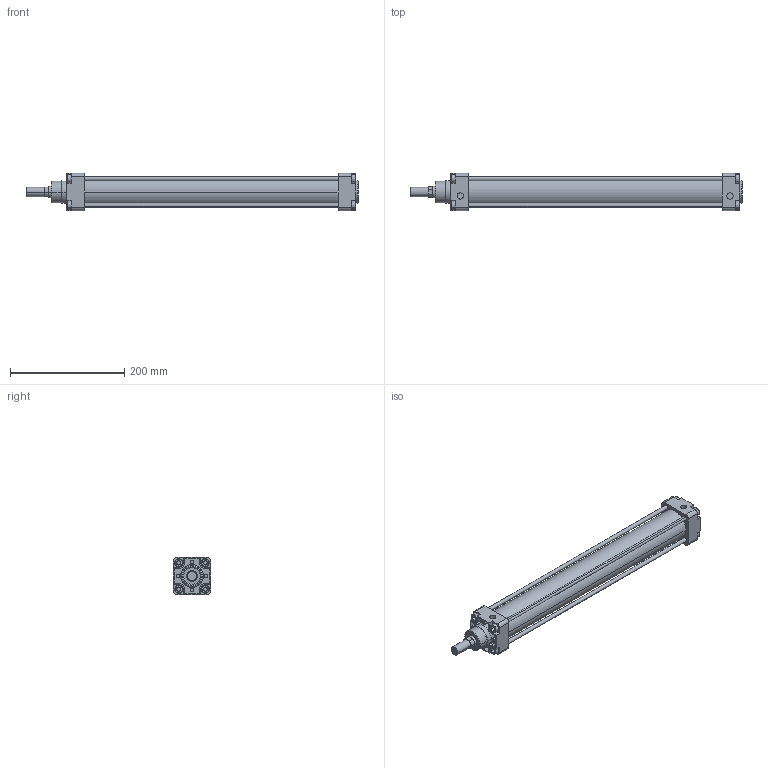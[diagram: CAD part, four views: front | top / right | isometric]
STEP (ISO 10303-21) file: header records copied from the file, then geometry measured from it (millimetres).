
FILE_DESCRIPTION(('CATIA V5 STEP Exchange'),'2;1');
FILE_NAME('D:\stp file for catalog\PNC\50\PNC 50-20-400.stp','2015-10-14T12:51:51+00:00',('none'),('none'),'Version 5-6 Release 2012','CATIA V5 STEP AP203','none');
FILE_SCHEMA(('CONFIG_CONTROL_DESIGN'));
Length unit declared in the file: millimetre
Products named in the file (1): PNC 50-20-400-00
Assembly tree (2 placements, depth 2):
  PNC 50-20-400-00
    #58
    #14116
Bounding box: 581 x 65 x 65 mm (x, y, z)
Volume: 682012.7 mm3; surface area: 293601.2 mm2
Topology: 6 solids, 6 shells, 536 faces, 1334 edges, 870 vertices
Faces by surface type: plane 324, cylinder 168, torus 26, extrusion 16, cone 2
Entity records: 14540 total; most frequent: CARTESIAN_POINT 2873, ORIENTED_EDGE 2668, DIRECTION 1792, EDGE_CURVE 1334, VECTOR 878, VERTEX_POINT 870, LINE 862, AXIS2_PLACEMENT_3D 661
